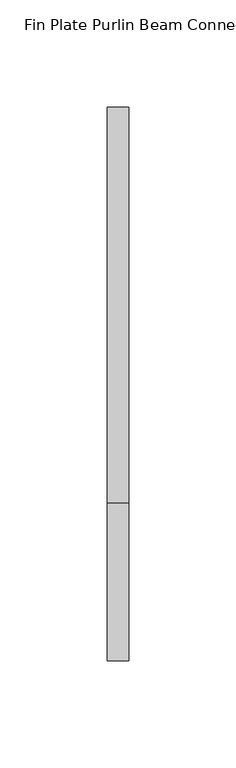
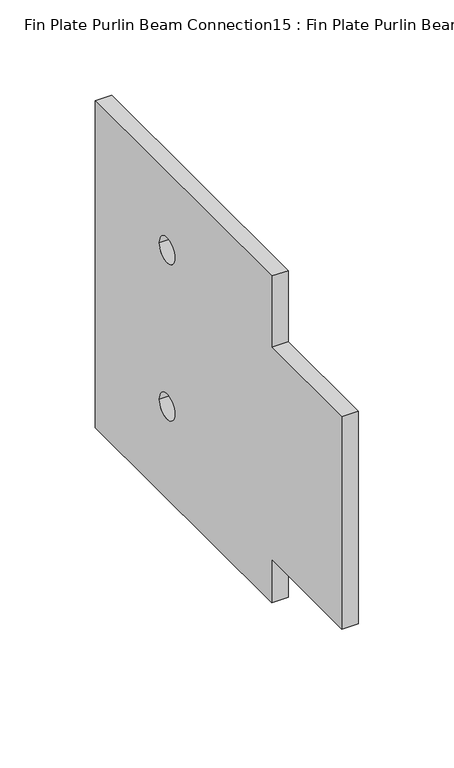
"""IFC4 building model written with IfcOpenShell, lengths in millimetres: proxy geometry, Fin Plate Purlin Beam Connection15 : Fin Plate Purlin Beam Connection."""

from ifc_helpers import new_model, si_unit, point, frame, frame_2d, origin, place, context, project, spatial, polyline, circle_curve, trimmed, segment, composite_curve, outline, extrude, source, transform, mapped, element, save


def fin_plate_purlin_beam_connection15_fin_plate_purlin_beam_166290e8(model_context):
    return source(origin(), model_context, "Body", "SweptSolid", [
        extrude(outline(polyline([(11055.4549517, 2454.7182916), (11055.4549517, 2590.5), (11129.0549517, 2590.5), (11129.0549517, 2635.9566779), (11313.6549517, 2635.9566779), (11313.6549517, 2427.0006295), (11129.0549517, 2427.0006295), (11129.0549517, 2454.7182916), (11055.4549517, 2454.7182916)]), holes=[composite_curve([segment(trimmed(circle_curve(frame_2d((11238.6549517, 2585.9566779)), 8.0), [point((11230.6549517, 2585.9566779))], [point((11246.6549517, 2585.9566779))], True, "CARTESIAN"), True, "CONTINUOUS"), segment(trimmed(circle_curve(frame_2d((11238.6549517, 2585.9566779)), 8.0), [point((11246.6549517, 2585.9566779))], [point((11230.6549517, 2585.9566779))], True, "CARTESIAN"), True, "CONTINUOUS")], self_intersect=False), composite_curve([segment(trimmed(circle_curve(frame_2d((11238.6549517, 2485.9566779)), 8.0), [point((11230.6549517, 2485.9566779))], [point((11246.6549517, 2485.9566779))], True, "CARTESIAN"), True, "CONTINUOUS"), segment(trimmed(circle_curve(frame_2d((11238.6549517, 2485.9566779)), 8.0), [point((11246.6549517, 2485.9566779))], [point((11230.6549517, 2485.9566779))], True, "CARTESIAN"), True, "CONTINUOUS")], self_intersect=False)]), frame((-29366.0036256, 0.0, 0.0), z_axis=(1.0, 0.0, 0.0), x_axis=(0.0, 1.0, 0.0)), (0.0, 0.0, 1.0), 10.0),
    ])


if __name__ == "__main__":
    model = new_model("IFC4")
    model_context = context("Model", 3, world=origin())
    ifc_project = project(units=[si_unit("LENGTHUNIT", "METRE", prefix="MILLI")], contexts=[model_context])
    site = spatial("IfcSite", under=ifc_project)
    building = spatial("IfcBuilding", under=site)
    placement = place(None, origin())
    fin_plate_purlin_beam_connection15_fin_plate_purlin_beam_shape = fin_plate_purlin_beam_connection15_fin_plate_purlin_beam_166290e8(model_context)
    element("IfcBuildingElementProxy", 1, Name="Fin Plate Purlin Beam Connection15 : Fin Plate Purlin Beam Connection", ObjectType="Fin Plate Purlin Beam Connection15 : Fin Plate Purlin Beam Connection", at=placement, inside=building, context=model_context, shape_type="MappedRepresentation", body=[
        mapped(fin_plate_purlin_beam_connection15_fin_plate_purlin_beam_shape, transform((0.0, 0.0, 0.0), x_axis=(1.0, 0.0, 0.0), y_axis=(0.0, 1.0, 0.0), z_axis=(0.0, 0.0, 1.0))),
    ])
    save(model, "model.ifc")
